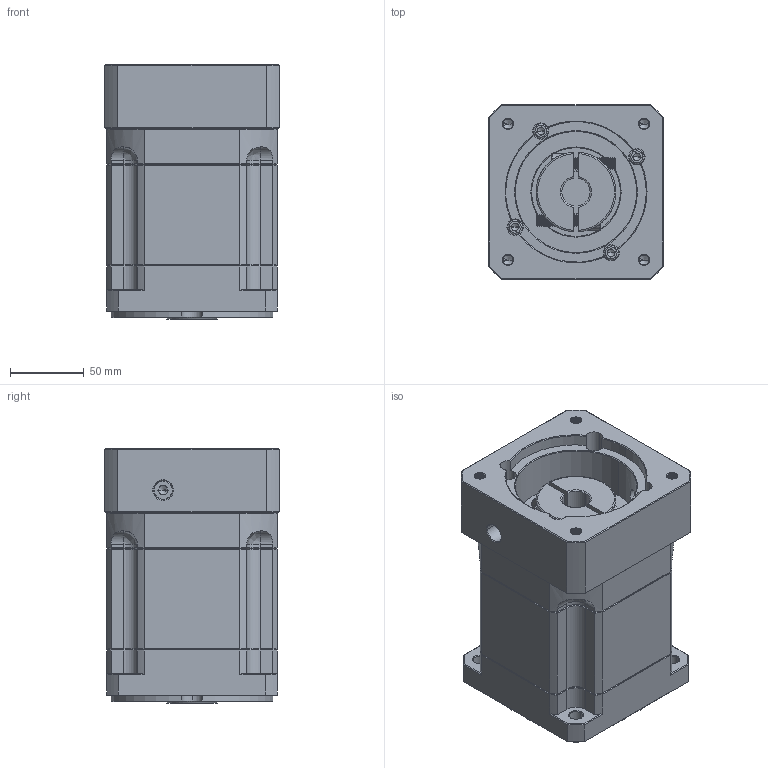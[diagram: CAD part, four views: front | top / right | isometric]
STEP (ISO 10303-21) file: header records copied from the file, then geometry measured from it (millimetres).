
FILE_DESCRIPTION (( 'STEP AP214' ), '1' );
FILE_NAME ('ZB115A-K25-L2-19-95-130-M8.step', '2023-03-02T09:04:36', ( '' ), ( 'Microsoft' ), 'SwSTEP 2.0', 'SolidWorks 2016', '' );
FILE_SCHEMA (( 'AUTOMOTIVE_DESIGN' ));
Length unit declared in the file: millimetre
Products named in the file (1): ZB115A-K25-L2-19-95-130-M8
Bounding box: 118 x 118 x 172 mm (x, y, z)
Volume: 1849929.2 mm3; surface area: 179356.7 mm2
Topology: 6 solids, 6 shells, 2069 faces, 5358 edges, 3380 vertices
Faces by surface type: plane 957, cylinder 411, cone 365, bspline 316, torus 20
Entity records: 108276 total; most frequent: CARTESIAN_POINT 37660, ORIENTED_EDGE 10652, DIRECTION 8793, EDGE_CURVE 5326, VERTEX_POINT 3380, LINE 3329, VECTOR 3329, AXIS2_PLACEMENT_3D 2732
